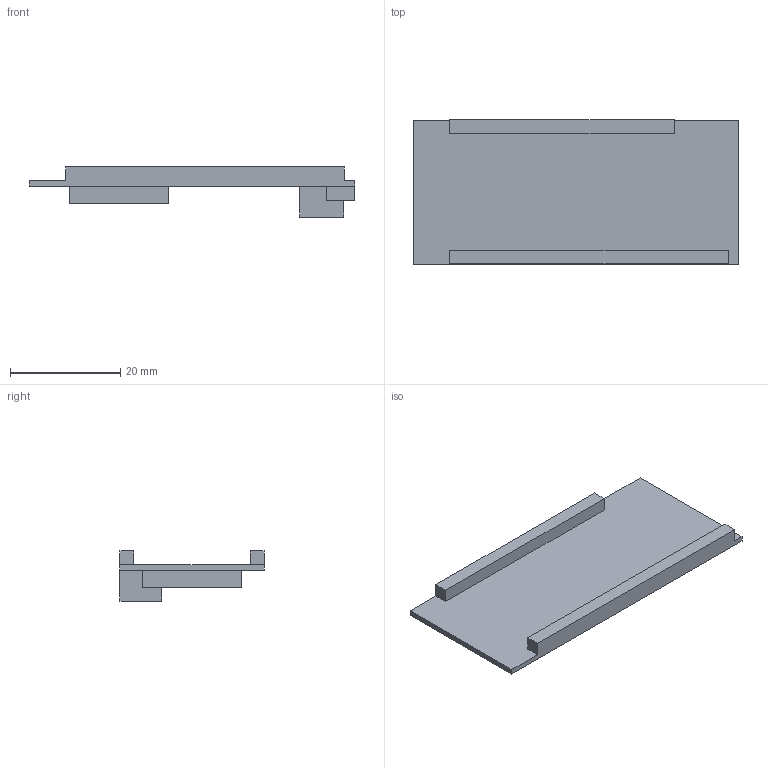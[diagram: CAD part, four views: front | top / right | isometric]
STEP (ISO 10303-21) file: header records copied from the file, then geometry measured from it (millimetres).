
FILE_DESCRIPTION(/* description */ (''),/* implementation_level */ '2;1');
FILE_NAME(/* name */ 'C:\Users\uhlma\OneDrive\Flaura\Produktentwicklung\Gehaeuse\CAD-Konstruktion\Prototyp 9\Thingiverse_Upload\Inventor\Dummy_ESP32_WEMOS_LOLIN32.stp',/* time_stamp */ '2021-07-25T11:45:10+02:00',/* author */ ('uhlma'),/* organization */ (''),/* preprocessor_version */ 'ST-DEVELOPER v18',/* originating_system */ 'Autodesk Inventor 2020',/* authorisation */ '');
FILE_SCHEMA (('AUTOMOTIVE_DESIGN { 1 0 10303 214 3 1 1 }'));
Length unit declared in the file: millimetre
Products named in the file (1): Dummy_ESP32_LOLIN_D32
Bounding box: 59 x 26.1 x 9.1 mm (x, y, z)
Volume: 3588.6 mm3; surface area: 4202.2 mm2
Topology: 1 solids, 1 shells, 27 faces, 72 edges, 48 vertices
Faces by surface type: plane 27
Entity records: 895 total; most frequent: CARTESIAN_POINT 148, ORIENTED_EDGE 144, DIRECTION 128, LINE 72, VECTOR 72, EDGE_CURVE 72, VERTEX_POINT 48, EDGE_LOOP 28
